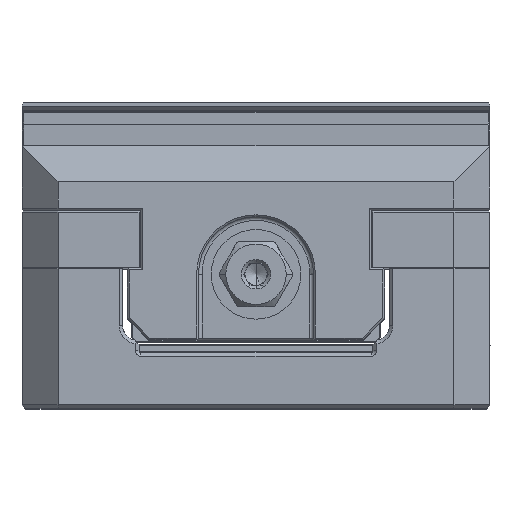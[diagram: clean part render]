
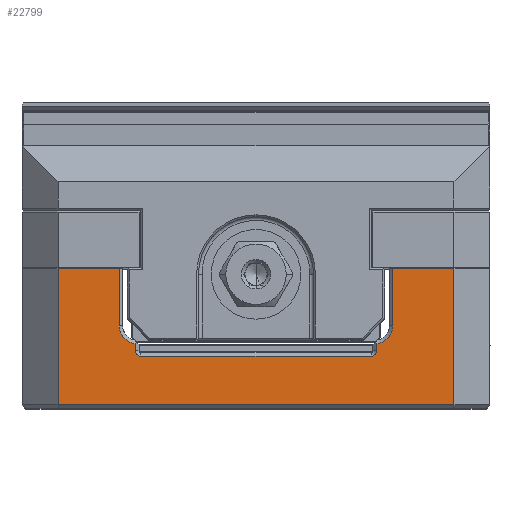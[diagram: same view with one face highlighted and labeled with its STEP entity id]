
A CAD part, top view. The second image highlights one B-rep face of the part: STEP entity #22799.
In plain terms, the highlighted planar face has unit normal (0, 0, 1).
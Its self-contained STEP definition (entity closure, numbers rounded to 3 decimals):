
#2556=DIRECTION('',(0.,1.,0.));
#2557=VECTOR('',#2556,37.8);
#2558=CARTESIAN_POINT('',(55.,7.,85.));
#2559=LINE('',#2558,#2557);
#2568=DIRECTION('',(1.,0.,0.));
#2569=VECTOR('',#2568,110.);
#2570=CARTESIAN_POINT('',(-55.,7.,85.));
#2571=LINE('',#2570,#2569);
#2576=DIRECTION('',(1.,0.,0.));
#2577=VECTOR('',#2576,17.);
#2578=CARTESIAN_POINT('',(-55.,44.8,85.));
#2579=LINE('',#2578,#2577);
#2580=DIRECTION('',(0.,-1.,0.));
#2581=VECTOR('',#2580,15.857);
#2582=CARTESIAN_POINT('',(-38.,44.8,85.));
#2583=LINE('',#2582,#2581);
#2584=CARTESIAN_POINT('',(-33.,28.943,85.));
#2585=DIRECTION('',(0.,0.,1.));
#2586=DIRECTION('',(-1.,0.,0.));
#2587=AXIS2_PLACEMENT_3D('',#2584,#2585,#2586);
#2589=CARTESIAN_POINT('',(-32.,22.,85.));
#2590=DIRECTION('',(0.,0.,1.));
#2591=DIRECTION('',(-1.,0.,0.));
#2592=AXIS2_PLACEMENT_3D('',#2589,#2590,#2591);
#2594=CARTESIAN_POINT('',(32.,22.,85.));
#2595=DIRECTION('',(0.,0.,1.));
#2596=DIRECTION('',(0.,-1.,0.));
#2597=AXIS2_PLACEMENT_3D('',#2594,#2595,#2596);
#2599=CARTESIAN_POINT('',(33.,28.943,85.));
#2600=DIRECTION('',(0.,0.,1.));
#2601=DIRECTION('',(0.1,-0.995,0.));
#2602=AXIS2_PLACEMENT_3D('',#2599,#2600,#2601);
#2604=DIRECTION('',(1.,0.,0.));
#2605=VECTOR('',#2604,17.);
#2606=CARTESIAN_POINT('',(38.,44.8,85.));
#2607=LINE('',#2606,#2605);
#2620=DIRECTION('',(0.,-1.,0.));
#2621=VECTOR('',#2620,37.8);
#2622=CARTESIAN_POINT('',(-55.,44.8,85.));
#2623=LINE('',#2622,#2621);
#6261=DIRECTION('',(0.,-1.,0.));
#6262=VECTOR('',#6261,1.968);
#6263=CARTESIAN_POINT('',(33.5,23.968,85.));
#6264=LINE('',#6263,#6262);
#6278=DIRECTION('',(-1.,0.,0.));
#6279=VECTOR('',#6278,64.);
#6280=CARTESIAN_POINT('',(32.,20.5,85.));
#6281=LINE('',#6280,#6279);
#6298=DIRECTION('',(0.,1.,0.));
#6299=VECTOR('',#6298,1.968);
#6300=CARTESIAN_POINT('',(-33.5,22.,85.));
#6301=LINE('',#6300,#6299);
#7231=DIRECTION('',(0.,-1.,0.));
#7232=VECTOR('',#7231,15.857);
#7233=CARTESIAN_POINT('',(38.,44.8,85.));
#7234=LINE('',#7233,#7232);
#17319=CARTESIAN_POINT('',(55.,7.,85.));
#17320=VERTEX_POINT('',#17319);
#17321=CARTESIAN_POINT('',(55.,44.8,85.));
#17322=VERTEX_POINT('',#17321);
#17325=CARTESIAN_POINT('',(-55.,7.,85.));
#17326=VERTEX_POINT('',#17325);
#17327=CARTESIAN_POINT('',(-55.,44.8,85.));
#17328=VERTEX_POINT('',#17327);
#17329=CARTESIAN_POINT('',(-38.,44.8,85.));
#17330=VERTEX_POINT('',#17329);
#17331=CARTESIAN_POINT('',(-38.,28.943,
85.));
#17332=VERTEX_POINT('',#17331);
#17333=CARTESIAN_POINT('',(-33.5,23.968,85.));
#17334=VERTEX_POINT('',#17333);
#17335=CARTESIAN_POINT('',(-33.5,22.,85.));
#17336=VERTEX_POINT('',#17335);
#17337=CARTESIAN_POINT('',(-32.,20.5,85.));
#17338=VERTEX_POINT('',#17337);
#17339=CARTESIAN_POINT('',(32.,20.5,85.));
#17340=VERTEX_POINT('',#17339);
#17341=CARTESIAN_POINT('',(33.5,22.,85.));
#17342=VERTEX_POINT('',#17341);
#17343=CARTESIAN_POINT('',(33.5,23.968,85.));
#17344=VERTEX_POINT('',#17343);
#17345=CARTESIAN_POINT('',(38.,28.944,85.));
#17346=VERTEX_POINT('',#17345);
#17347=CARTESIAN_POINT('',(38.,44.8,85.));
#17348=VERTEX_POINT('',#17347);
#22767=CARTESIAN_POINT('',(-50.,0.,85.));
#22768=DIRECTION('',(0.,0.,-1.));
#22769=DIRECTION('',(1.,0.,0.));
#22770=AXIS2_PLACEMENT_3D('',#22767,#22768,#22769);
#22771=PLANE('',#22770);
#22772=ORIENTED_EDGE('',*,*,#22758,.F.);
#22774=ORIENTED_EDGE('',*,*,#22773,.F.);
#22776=ORIENTED_EDGE('',*,*,#22775,.T.);
#22778=ORIENTED_EDGE('',*,*,#22777,.T.);
#22780=ORIENTED_EDGE('',*,*,#22779,.T.);
#22782=ORIENTED_EDGE('',*,*,#22781,.F.);
#22784=ORIENTED_EDGE('',*,*,#22783,.T.);
#22786=ORIENTED_EDGE('',*,*,#22785,.F.);
#22788=ORIENTED_EDGE('',*,*,#22787,.T.);
#22790=ORIENTED_EDGE('',*,*,#22789,.F.);
#22792=ORIENTED_EDGE('',*,*,#22791,.T.);
#22794=ORIENTED_EDGE('',*,*,#22793,.F.);
#22795=ORIENTED_EDGE('',*,*,#22694,.T.);
#22796=ORIENTED_EDGE('',*,*,#22733,.F.);
#22797=EDGE_LOOP('',(#22772,#22774,#22776,#22778,#22780,#22782,#22784,#22786,
#22788,#22790,#22792,#22794,#22795,#22796));
#22798=FACE_OUTER_BOUND('',#22797,.F.);
#22799=ADVANCED_FACE('',(#22798),#22771,.F.);
#2588=CIRCLE('',#2587,5.);
#2593=CIRCLE('',#2592,1.5);
#2598=CIRCLE('',#2597,1.5);
#2603=CIRCLE('',#2602,5.);
#22694=EDGE_CURVE('',#17348,#17322,#2607,.T.);
#22733=EDGE_CURVE('',#17320,#17322,#2559,.T.);
#22758=EDGE_CURVE('',#17326,#17320,#2571,.T.);
#22773=EDGE_CURVE('',#17328,#17326,#2623,.T.);
#22775=EDGE_CURVE('',#17328,#17330,#2579,.T.);
#22777=EDGE_CURVE('',#17330,#17332,#2583,.T.);
#22779=EDGE_CURVE('',#17332,#17334,#2588,.T.);
#22781=EDGE_CURVE('',#17336,#17334,#6301,.T.);
#22783=EDGE_CURVE('',#17336,#17338,#2593,.T.);
#22785=EDGE_CURVE('',#17340,#17338,#6281,.T.);
#22787=EDGE_CURVE('',#17340,#17342,#2598,.T.);
#22789=EDGE_CURVE('',#17344,#17342,#6264,.T.);
#22791=EDGE_CURVE('',#17344,#17346,#2603,.T.);
#22793=EDGE_CURVE('',#17348,#17346,#7234,.T.);
